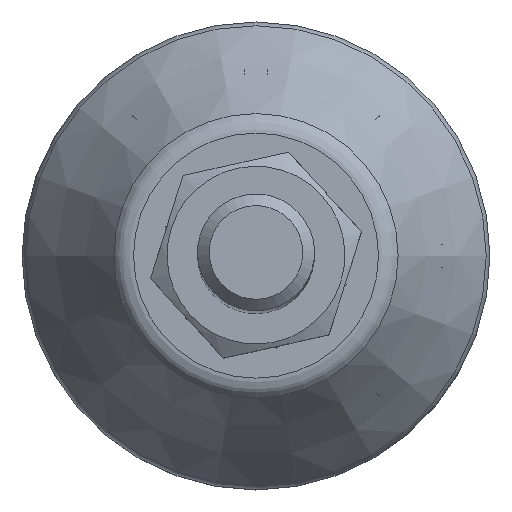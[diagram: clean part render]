
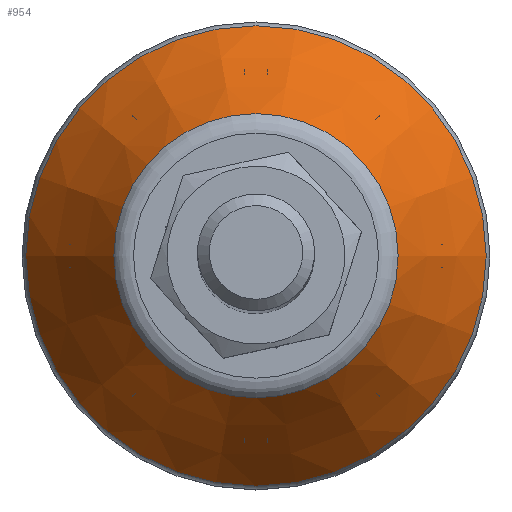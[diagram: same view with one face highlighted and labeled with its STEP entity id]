
A CAD part, top view. The second image highlights one B-rep face of the part: STEP entity #954.
In plain terms, the highlighted conical face has half-angle 33 degrees and reference radius 15.913 mm.
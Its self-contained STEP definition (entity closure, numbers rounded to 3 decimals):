
#954=ADVANCED_FACE('',(#2088,#2090),#2092,.T.);
#2088=FACE_BOUND('',#2089,.T.);
#2089=EDGE_LOOP('',(#3049,#3050));
#2090=FACE_BOUND('',#2091,.T.);
#2091=EDGE_LOOP('',(#3051,#3052));
#2092=CONICAL_SURFACE('',#2093,15.913,0.576);
#2093=AXIS2_PLACEMENT_3D('',#2094,#2095,#2096);
#2094=CARTESIAN_POINT('',(0.,0.,11.293));
#2095=DIRECTION('',(0.,0.,-1.));
#2096=DIRECTION('',(1.,0.,0.));
#3049=ORIENTED_EDGE('',*,*,#3574,.T.);
#3050=ORIENTED_EDGE('',*,*,#3573,.T.);
#3051=ORIENTED_EDGE('',*,*,#3577,.F.);
#3052=ORIENTED_EDGE('',*,*,#3578,.F.);
#3573=EDGE_CURVE('',#4132,#4133,#4134,.T.);
#3574=EDGE_CURVE('',#4133,#4132,#4135,.T.);
#3577=EDGE_CURVE('',#4140,#4141,#4142,.T.);
#3578=EDGE_CURVE('',#4141,#4140,#4143,.T.);
#4132=VERTEX_POINT('',#7098);
#4133=VERTEX_POINT('',#7099);
#4134=CIRCLE('',#7100,19.677);
#4135=CIRCLE('',#7104,19.677);
#4140=VERTEX_POINT('',#7118);
#4141=VERTEX_POINT('',#7119);
#4142=CIRCLE('',#7120,12.149);
#4143=CIRCLE('',#7124,12.149);
#7098=CARTESIAN_POINT('',(-19.677,0.,5.497));
#7099=CARTESIAN_POINT('',(19.677,0.,5.497));
#7100=AXIS2_PLACEMENT_3D('',#7101,#7102,#7103);
#7101=CARTESIAN_POINT('',(0.,0.,5.497));
#7102=DIRECTION('',(0.,0.,1.));
#7103=DIRECTION('',(-1.,0.,0.));
#7104=AXIS2_PLACEMENT_3D('',#7105,#7106,#7107);
#7105=CARTESIAN_POINT('',(0.,0.,5.497));
#7106=DIRECTION('',(0.,0.,1.));
#7107=DIRECTION('',(1.,0.,0.));
#7118=CARTESIAN_POINT('',(-12.149,0.,17.089));
#7119=CARTESIAN_POINT('',(12.149,0.,17.089));
#7120=AXIS2_PLACEMENT_3D('',#7121,#7122,#7123);
#7121=CARTESIAN_POINT('',(0.,0.,17.089));
#7122=DIRECTION('',(0.,0.,1.));
#7123=DIRECTION('',(-1.,0.,0.));
#7124=AXIS2_PLACEMENT_3D('',#7125,#7126,#7127);
#7125=CARTESIAN_POINT('',(0.,0.,17.089));
#7126=DIRECTION('',(0.,0.,1.));
#7127=DIRECTION('',(1.,0.,0.));
